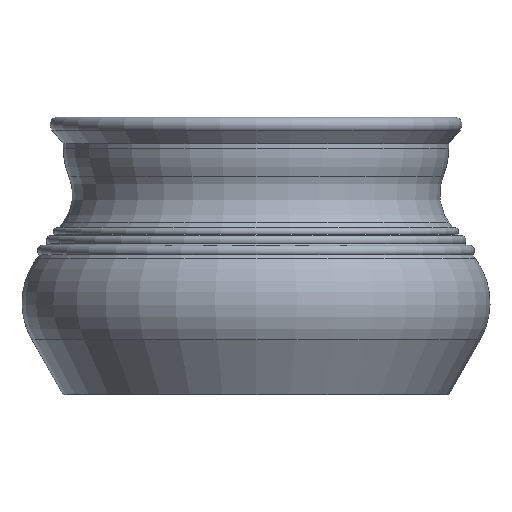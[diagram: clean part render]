
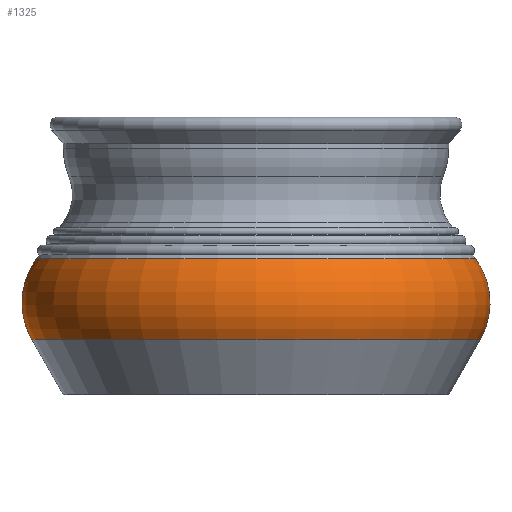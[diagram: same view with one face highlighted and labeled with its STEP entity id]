
A CAD part, front view. The second image highlights one B-rep face of the part: STEP entity #1325.
In plain terms, the highlighted toroidal (fillet/blend) face has major radius 100.496 mm and minor radius 46.864 mm.
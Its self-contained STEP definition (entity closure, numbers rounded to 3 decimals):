
#22=TOROIDAL_SURFACE('',#1505,100.496,46.864);
#166=FACE_OUTER_BOUND('',#284,.T.);
#284=EDGE_LOOP('',(#1208,#1209,#1210,#1211));
#526=CIRCLE('',#1467,141.201);
#549=CIRCLE('',#1506,138.261);
#550=CIRCLE('',#1507,46.864);
#653=VERTEX_POINT('',#2240);
#669=VERTEX_POINT('',#2303);
#818=EDGE_CURVE('',#653,#653,#526,.T.);
#849=EDGE_CURVE('',#669,#669,#549,.T.);
#850=EDGE_CURVE('',#669,#653,#550,.T.);
#1208=ORIENTED_EDGE('',*,*,#849,.F.);
#1209=ORIENTED_EDGE('',*,*,#850,.T.);
#1210=ORIENTED_EDGE('',*,*,#818,.T.);
#1211=ORIENTED_EDGE('',*,*,#850,.F.);
#1325=ADVANCED_FACE('',(#166),#22,.T.);
#1467=AXIS2_PLACEMENT_3D('',#2241,#1837,#1838);
#1505=AXIS2_PLACEMENT_3D('',#2302,#1921,#1922);
#1506=AXIS2_PLACEMENT_3D('',#2304,#1923,#1924);
#1507=AXIS2_PLACEMENT_3D('',#2305,#1925,#1926);
#1837=DIRECTION('center_axis',(0.,0.,1.));
#1838=DIRECTION('ref_axis',(1.,0.,0.));
#1921=DIRECTION('center_axis',(0.,0.,1.));
#1922=DIRECTION('ref_axis',(1.,0.,0.));
#1923=DIRECTION('center_axis',(0.,0.,1.));
#1924=DIRECTION('ref_axis',(1.,0.,0.));
#1925=DIRECTION('center_axis',(0.,-1.,0.));
#1926=DIRECTION('ref_axis',(-1.,0.,0.));
#2240=CARTESIAN_POINT('',(-141.201,0.,34.776));
#2241=CARTESIAN_POINT('Origin',(0.,0.,34.776));
#2302=CARTESIAN_POINT('Origin',(0.,0.,58.));
#2303=CARTESIAN_POINT('',(-138.261,0.,85.75));
#2304=CARTESIAN_POINT('Origin',(0.,0.,85.75));
#2305=CARTESIAN_POINT('Origin',(-100.496,0.,
58.));
